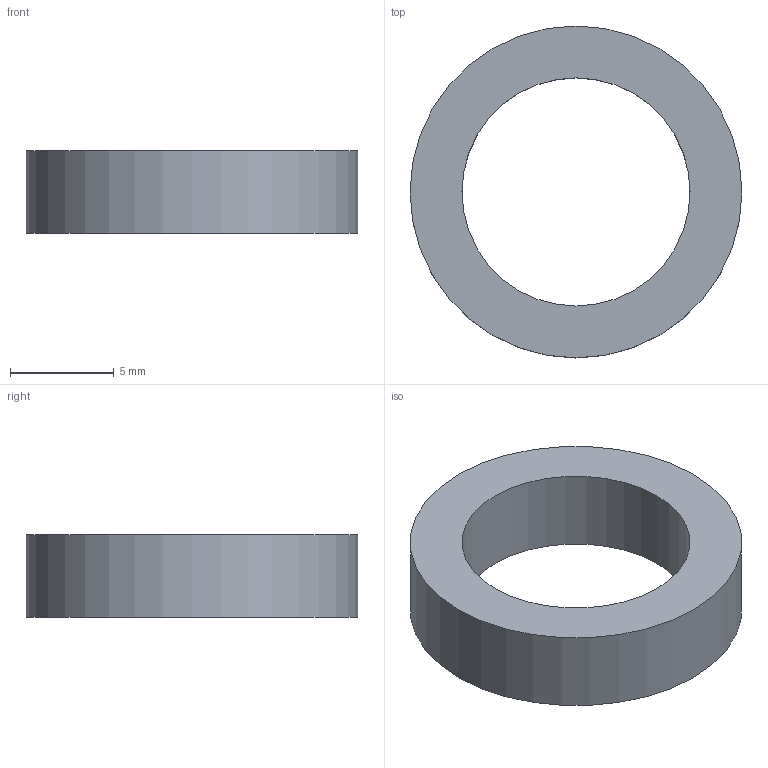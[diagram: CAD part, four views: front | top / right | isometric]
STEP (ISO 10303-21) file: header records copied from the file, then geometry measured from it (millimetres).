
FILE_DESCRIPTION(('Open CASCADE Model'),'2;1');
FILE_NAME('Open CASCADE Shape Model','2026-11-24T19:57:40',('Author'),( 'Open CASCADE'),'Open CASCADE STEP processor 7.8','Open CASCADE 7.8' ,'Unknown');
FILE_SCHEMA(('AUTOMOTIVE_DESIGN { 1 0 10303 214 1 1 1 1 }'));
Length unit declared in the file: millimetre
Products named in the file (1): Open CASCADE STEP translator 7.8 171
Bounding box: 16 x 16 x 4 mm (x, y, z)
Volume: 424.1 mm3; surface area: 551.3 mm2
Topology: 1 solids, 1 shells, 4 faces, 6 edges, 4 vertices
Faces by surface type: cylinder 2, plane 2
Full cylindrical faces by diameter (mm): 11 x1, 16 x1
Entity records: 184 total; most frequent: DIRECTION 30, CARTESIAN_POINT 29, ORIENTED_EDGE 12, PCURVE 12, DEFINITIONAL_REPRESENTATION 12, AXIS2_PLACEMENT_3D 9, CIRCLE 8, LINE 8
